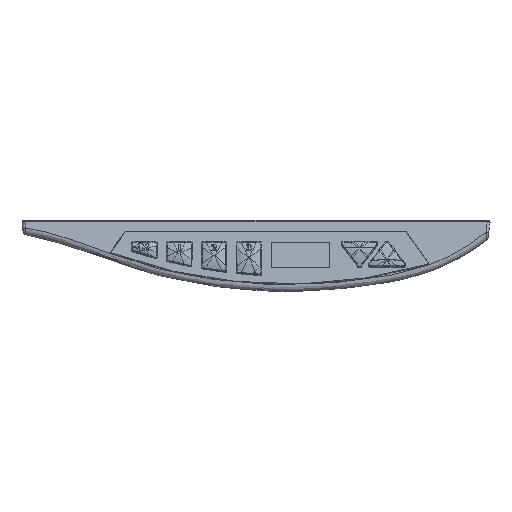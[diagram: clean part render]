
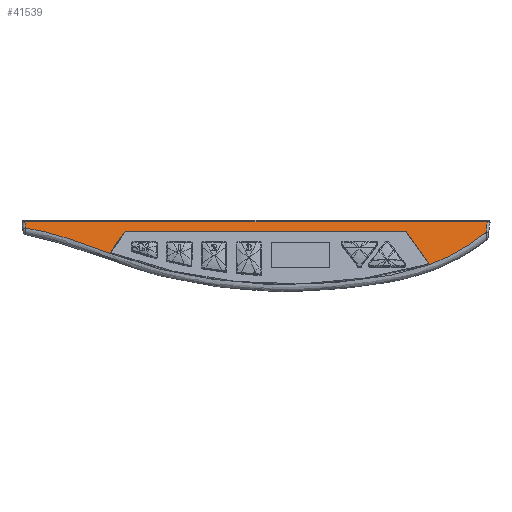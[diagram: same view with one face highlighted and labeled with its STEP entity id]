
A CAD part, front view. The second image highlights one B-rep face of the part: STEP entity #41539.
In plain terms, the highlighted planar face has unit normal (0, -0.985, 0.174).
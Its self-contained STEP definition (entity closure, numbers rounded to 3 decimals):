
#1463=PLANE('',#44860);
#3269=LINE('',#68678,#6500);
#3684=LINE('',#84397,#6915);
#3685=LINE('',#84399,#6916);
#3686=LINE('',#84401,#6917);
#6500=VECTOR('',#50015,1000.);
#6915=VECTOR('',#51502,1000.);
#6916=VECTOR('',#51503,1000.);
#6917=VECTOR('',#51504,1000.);
#9794=CIRCLE('',#44849,3335.353);
#9799=CIRCLE('',#44856,3346.88);
#16148=ORIENTED_EDGE('',*,*,#26068,.F.);
#16149=ORIENTED_EDGE('',*,*,#26069,.F.);
#16150=ORIENTED_EDGE('',*,*,#26070,.F.);
#16151=ORIENTED_EDGE('',*,*,#26025,.T.);
#16152=ORIENTED_EDGE('',*,*,#26029,.F.);
#16153=ORIENTED_EDGE('',*,*,#25082,.T.);
#16154=ORIENTED_EDGE('',*,*,#26054,.T.);
#16155=ORIENTED_EDGE('',*,*,#26027,.T.);
#25082=EDGE_CURVE('',#30722,#30721,#3269,.T.);
#26025=EDGE_CURVE('',#31392,#31391,#34285,.T.);
#26027=EDGE_CURVE('',#31388,#31393,#34287,.T.);
#26029=EDGE_CURVE('',#30722,#31391,#9794,.T.);
#26054=EDGE_CURVE('',#30721,#31388,#9799,.T.);
#26068=EDGE_CURVE('',#31408,#31393,#3684,.T.);
#26069=EDGE_CURVE('',#31409,#31408,#3685,.T.);
#26070=EDGE_CURVE('',#31392,#31409,#3686,.T.);
#30721=VERTEX_POINT('',#68677);
#30722=VERTEX_POINT('',#68679);
#31388=VERTEX_POINT('',#79009);
#31391=VERTEX_POINT('',#79038);
#31392=VERTEX_POINT('',#79060);
#31393=VERTEX_POINT('',#79072);
#31408=VERTEX_POINT('',#84398);
#31409=VERTEX_POINT('',#84400);
#34285=B_SPLINE_CURVE_WITH_KNOTS('',3,(#79039,#79040,#79041,#79042,#79043,
#79044,#79045,#79046,#79047,#79048,#79049,#79050,#79051,#79052,#79053,#79054,
#79055,#79056,#79057,#79058,#79059),.UNSPECIFIED.,.F.,.F.,(4,1,1,1,1,1,
1,1,1,1,1,1,1,1,1,1,1,1,4),(0.,0.125,0.188,0.25,0.313,0.375,0.438,0.5,
0.563,0.625,0.688,0.719,0.734,0.75,0.766,0.781,0.813,0.875,
1.),.UNSPECIFIED.);
#34287=B_SPLINE_CURVE_WITH_KNOTS('',3,(#79073,#79074,#79075,#79076,#79077,
#79078,#79079,#79080,#79081,#79082,#79083,#79084,#79085,#79086,#79087,#79088,
#79089,#79090,#79091,#79092,#79093,#79094,#79095,#79096,#79097,#79098,#79099,
#79100,#79101,#79102,#79103,#79104,#79105,#79106,#79107,#79108,#79109,#79110,
#79111,#79112,#79113,#79114,#79115,#79116,#79117,#79118,#79119,#79120,#79121,
#79122,#79123,#79124,#79125,#79126,#79127,#79128,#79129,#79130),
 .UNSPECIFIED.,.F.,.F.,(4,1,1,1,1,1,1,1,1,1,1,1,1,1,1,1,1,1,1,1,1,1,1,1,
1,1,1,1,1,1,1,1,1,1,1,1,1,1,1,1,1,1,1,1,1,1,1,1,1,1,1,1,1,1,1,4),(0.,0.063,
0.125,0.188,0.219,0.234,0.25,0.266,0.281,0.313,0.375,0.438,
0.469,0.484,0.5,0.516,0.531,0.563,0.594,0.609,0.617,
0.625,0.633,0.641,0.656,0.688,0.703,0.719,0.727,0.734,
0.742,0.746,0.748,0.75,0.752,0.754,0.758,
0.766,0.773,0.781,0.797,0.813,0.828,0.844,0.859,0.867,
0.871,0.875,0.879,0.883,0.891,0.906,0.922,0.938,
0.969,1.),.UNSPECIFIED.);
#36290=EDGE_LOOP('',(#16148,#16149,#16150,#16151,#16152,#16153,#16154,#16155));
#38964=FACE_BOUND('',#36290,.T.);
#41539=ADVANCED_FACE('',(#38964),#1463,.T.);
#44849=AXIS2_PLACEMENT_3D('',#79260,#51471,#51472);
#44856=AXIS2_PLACEMENT_3D('',#81799,#51487,#51488);
#44860=AXIS2_PLACEMENT_3D('',#84396,#51500,#51501);
#50015=DIRECTION('',(-1.,0.,0.));
#51471=DIRECTION('',(0.,0.985,-0.174));
#51472=DIRECTION('',(0.993,-0.02,-0.116));
#51487=DIRECTION('',(0.,-0.985,0.174));
#51488=DIRECTION('',(-0.993,-0.02,-0.116));
#51500=DIRECTION('',(0.,-0.985,0.174));
#51501=DIRECTION('',(0.,-0.174,-0.985));
#51502=DIRECTION('',(-0.574,-0.142,-0.807));
#51503=DIRECTION('',(-1.,0.,0.));
#51504=DIRECTION('',(-0.574,0.142,0.807));
#68677=CARTESIAN_POINT('',(-82.33,-0.087,-0.496));
#68678=CARTESIAN_POINT('',(-41.795,-0.087,-0.496));
#68679=CARTESIAN_POINT('',(82.239,-0.087,-0.496));
#79009=CARTESIAN_POINT('',(-82.054,-0.492,-2.788));
#79038=CARTESIAN_POINT('',(81.776,-0.764,-4.332));
#79039=CARTESIAN_POINT('',(61.768,-2.782,-15.775));
#79040=CARTESIAN_POINT('',(62.692,-2.722,-15.436));
#79041=CARTESIAN_POINT('',(64.055,-2.627,-14.9));
#79042=CARTESIAN_POINT('',(65.812,-2.493,-14.14));
#79043=CARTESIAN_POINT('',(67.131,-2.386,-13.532));
#79044=CARTESIAN_POINT('',(68.322,-2.283,-12.95));
#79045=CARTESIAN_POINT('',(69.594,-2.168,-12.296));
#79046=CARTESIAN_POINT('',(70.888,-2.045,-11.599));
#79047=CARTESIAN_POINT('',(72.228,-1.912,-10.846));
#79048=CARTESIAN_POINT('',(73.577,-1.774,-10.059));
#79049=CARTESIAN_POINT('',(74.84,-1.639,-9.298));
#79050=CARTESIAN_POINT('',(75.844,-1.528,-8.668));
#79051=CARTESIAN_POINT('',(76.511,-1.453,-8.238));
#79052=CARTESIAN_POINT('',(76.893,-1.408,-7.987));
#79053=CARTESIAN_POINT('',(77.151,-1.378,-7.816));
#79054=CARTESIAN_POINT('',(77.498,-1.337,-7.584));
#79055=CARTESIAN_POINT('',(77.921,-1.286,-7.296));
#79056=CARTESIAN_POINT('',(78.658,-1.196,-6.783));
#79057=CARTESIAN_POINT('',(80.049,-1.017,-5.769));
#79058=CARTESIAN_POINT('',(81.119,-0.865,-4.905));
#79059=CARTESIAN_POINT('',(81.776,-0.764,-4.332));
#79060=CARTESIAN_POINT('',(61.768,-2.782,-15.775));
#79072=CARTESIAN_POINT('',(-52.174,-2.066,-11.719));
#79073=CARTESIAN_POINT('',(-82.054,-0.492,-2.788));
#79074=CARTESIAN_POINT('',(-81.452,-0.505,-2.864));
#79075=CARTESIAN_POINT('',(-80.231,-0.536,-3.04));
#79076=CARTESIAN_POINT('',(-78.345,-0.595,-3.373));
#79077=CARTESIAN_POINT('',(-76.734,-0.654,-3.707));
#79078=CARTESIAN_POINT('',(-75.574,-0.701,-3.973));
#79079=CARTESIAN_POINT('',(-74.918,-0.728,-4.131));
#79080=CARTESIAN_POINT('',(-74.385,-0.752,-4.263));
#79081=CARTESIAN_POINT('',(-73.992,-0.769,-4.363));
#79082=CARTESIAN_POINT('',(-73.41,-0.796,-4.514));
#79083=CARTESIAN_POINT('',(-72.393,-0.844,-4.787));
#79084=CARTESIAN_POINT('',(-70.867,-0.921,-5.222));
#79085=CARTESIAN_POINT('',(-69.272,-1.007,-5.708));
#79086=CARTESIAN_POINT('',(-68.102,-1.072,-6.081));
#79087=CARTESIAN_POINT('',(-67.438,-1.11,-6.296));
#79088=CARTESIAN_POINT('',(-66.889,-1.142,-6.477));
#79089=CARTESIAN_POINT('',(-66.506,-1.165,-6.605));
#79090=CARTESIAN_POINT('',(-65.917,-1.2,-6.803));
#79091=CARTESIAN_POINT('',(-65.17,-1.244,-7.057));
#79092=CARTESIAN_POINT('',(-64.379,-1.293,-7.33));
#79093=CARTESIAN_POINT('',(-63.798,-1.328,-7.534));
#79094=CARTESIAN_POINT('',(-63.472,-1.349,-7.648));
#79095=CARTESIAN_POINT('',(-63.189,-1.366,-7.748));
#79096=CARTESIAN_POINT('',(-63.039,-1.375,-7.801));
#79097=CARTESIAN_POINT('',(-62.781,-1.392,-7.892));
#79098=CARTESIAN_POINT('',(-62.329,-1.42,-8.053));
#79099=CARTESIAN_POINT('',(-61.748,-1.457,-8.261));
#79100=CARTESIAN_POINT('',(-61.116,-1.497,-8.488));
#79101=CARTESIAN_POINT('',(-60.697,-1.523,-8.638));
#79102=CARTESIAN_POINT('',(-60.349,-1.545,-8.764));
#79103=CARTESIAN_POINT('',(-60.081,-1.562,-8.861));
#79104=CARTESIAN_POINT('',(-59.854,-1.577,-8.943));
#79105=CARTESIAN_POINT('',(-59.687,-1.588,-9.004));
#79106=CARTESIAN_POINT('',(-59.599,-1.593,-9.035));
#79107=CARTESIAN_POINT('',(-59.508,-1.599,-9.069));
#79108=CARTESIAN_POINT('',(-59.513,-1.599,-9.067));
#79109=CARTESIAN_POINT('',(-59.485,-1.601,-9.077));
#79110=CARTESIAN_POINT('',(-59.446,-1.603,-9.091));
#79111=CARTESIAN_POINT('',(-59.368,-1.608,-9.119));
#79112=CARTESIAN_POINT('',(-59.257,-1.615,-9.159));
#79113=CARTESIAN_POINT('',(-59.08,-1.626,-9.224));
#79114=CARTESIAN_POINT('',(-58.804,-1.644,-9.324));
#79115=CARTESIAN_POINT('',(-58.388,-1.671,-9.475));
#79116=CARTESIAN_POINT('',(-57.885,-1.703,-9.657));
#79117=CARTESIAN_POINT('',(-57.296,-1.74,-9.871));
#79118=CARTESIAN_POINT('',(-56.737,-1.776,-10.074));
#79119=CARTESIAN_POINT('',(-56.3,-1.804,-10.232));
#79120=CARTESIAN_POINT('',(-56.052,-1.82,-10.322));
#79121=CARTESIAN_POINT('',(-55.825,-1.835,-10.404));
#79122=CARTESIAN_POINT('',(-55.73,-1.841,-10.439));
#79123=CARTESIAN_POINT('',(-55.558,-1.852,-10.501));
#79124=CARTESIAN_POINT('',(-55.28,-1.869,-10.602));
#79125=CARTESIAN_POINT('',(-54.877,-1.895,-10.748));
#79126=CARTESIAN_POINT('',(-54.406,-1.925,-10.918));
#79127=CARTESIAN_POINT('',(-53.788,-1.964,-11.141));
#79128=CARTESIAN_POINT('',(-53.037,-2.012,-11.41));
#79129=CARTESIAN_POINT('',(-52.458,-2.048,-11.617));
#79130=CARTESIAN_POINT('',(-52.174,-2.066,-11.719));
#79260=CARTESIAN_POINT('',(-3230.046,67.913,385.152));
#81799=CARTESIAN_POINT('',(3241.402,68.148,386.489));
#84396=CARTESIAN_POINT('',(-83.545,0.,0.));
#84397=CARTESIAN_POINT('',(-51.775,-1.967,-11.157));
#84398=CARTESIAN_POINT('',(-46.645,-0.695,-3.943));
#84399=CARTESIAN_POINT('',(-15.095,-0.695,-3.943));
#84400=CARTESIAN_POINT('',(53.355,-0.695,-3.943));
#84401=CARTESIAN_POINT('',(34.101,4.08,23.136));
